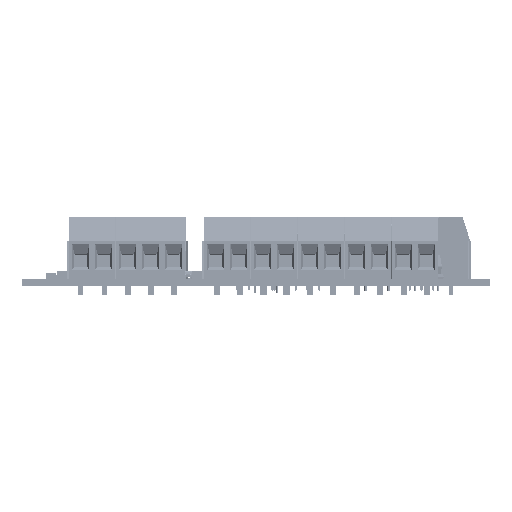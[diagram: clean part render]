
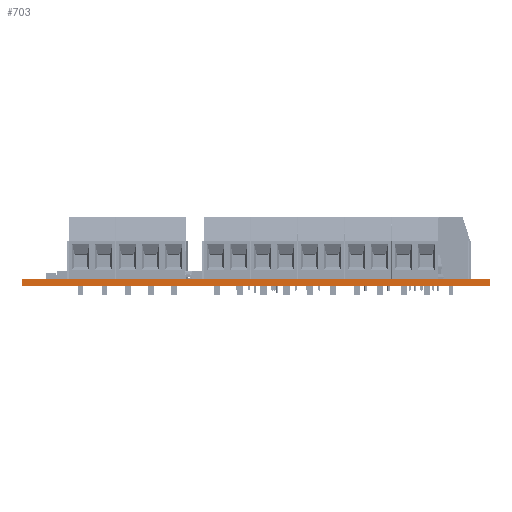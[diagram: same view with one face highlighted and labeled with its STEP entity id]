
A CAD part, left-side view. The second image highlights one B-rep face of the part: STEP entity #703.
In plain terms, the highlighted planar face has unit normal (-1, 0, 0).
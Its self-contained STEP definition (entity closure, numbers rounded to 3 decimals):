
#440 = EDGE_CURVE('',#441,#443,#445,.T.);
#441 = VERTEX_POINT('',#442);
#442 = CARTESIAN_POINT('',(0.,0.,0.));
#443 = VERTEX_POINT('',#444);
#444 = CARTESIAN_POINT('',(0.,0.,1.6));
#445 = SURFACE_CURVE('',#446,(#450,#462),.PCURVE_S1.);
#446 = LINE('',#447,#448);
#447 = CARTESIAN_POINT('',(0.,0.,0.));
#448 = VECTOR('',#449,1.);
#449 = DIRECTION('',(0.,0.,1.));
#450 = PCURVE('',#451,#456);
#451 = PLANE('',#452);
#452 = AXIS2_PLACEMENT_3D('',#453,#454,#455);
#453 = CARTESIAN_POINT('',(0.,0.,0.));
#454 = DIRECTION('',(0.,1.,0.));
#455 = DIRECTION('',(1.,0.,0.));
#456 = DEFINITIONAL_REPRESENTATION('',(#457),#461);
#457 = LINE('',#458,#459);
#458 = CARTESIAN_POINT('',(0.,0.));
#459 = VECTOR('',#460,1.);
#460 = DIRECTION('',(0.,-1.));
#461 = ( GEOMETRIC_REPRESENTATION_CONTEXT(2) 
PARAMETRIC_REPRESENTATION_CONTEXT() REPRESENTATION_CONTEXT('2D SPACE',''
  ) );
#462 = PCURVE('',#463,#468);
#463 = PLANE('',#464);
#464 = AXIS2_PLACEMENT_3D('',#465,#466,#467);
#465 = CARTESIAN_POINT('',(0.,101.6,0.));
#466 = DIRECTION('',(1.,0.,0.));
#467 = DIRECTION('',(0.,-1.,0.));
#468 = DEFINITIONAL_REPRESENTATION('',(#469),#473);
#469 = LINE('',#470,#471);
#470 = CARTESIAN_POINT('',(101.6,0.));
#471 = VECTOR('',#472,1.);
#472 = DIRECTION('',(0.,-1.));
#473 = ( GEOMETRIC_REPRESENTATION_CONTEXT(2) 
PARAMETRIC_REPRESENTATION_CONTEXT() REPRESENTATION_CONTEXT('2D SPACE',''
  ) );
#491 = PLANE('',#492);
#492 = AXIS2_PLACEMENT_3D('',#493,#494,#495);
#493 = CARTESIAN_POINT('',(0.,0.,1.6));
#494 = DIRECTION('',(0.,0.,-1.));
#495 = DIRECTION('',(-1.,0.,0.));
#545 = PLANE('',#546);
#546 = AXIS2_PLACEMENT_3D('',#547,#548,#549);
#547 = CARTESIAN_POINT('',(0.,0.,0.));
#548 = DIRECTION('',(0.,0.,-1.));
#549 = DIRECTION('',(-1.,0.,0.));
#600 = PLANE('',#601);
#601 = AXIS2_PLACEMENT_3D('',#602,#603,#604);
#602 = CARTESIAN_POINT('',(127.,101.6,0.));
#603 = DIRECTION('',(0.,-1.,0.));
#604 = DIRECTION('',(-1.,0.,0.));
#638 = VERTEX_POINT('',#639);
#639 = CARTESIAN_POINT('',(0.,101.6,1.6));
#660 = EDGE_CURVE('',#661,#638,#663,.T.);
#661 = VERTEX_POINT('',#662);
#662 = CARTESIAN_POINT('',(0.,101.6,0.));
#663 = SURFACE_CURVE('',#664,(#668,#675),.PCURVE_S1.);
#664 = LINE('',#665,#666);
#665 = CARTESIAN_POINT('',(0.,101.6,0.));
#666 = VECTOR('',#667,1.);
#667 = DIRECTION('',(0.,0.,1.));
#668 = PCURVE('',#600,#669);
#669 = DEFINITIONAL_REPRESENTATION('',(#670),#674);
#670 = LINE('',#671,#672);
#671 = CARTESIAN_POINT('',(127.,0.));
#672 = VECTOR('',#673,1.);
#673 = DIRECTION('',(0.,-1.));
#674 = ( GEOMETRIC_REPRESENTATION_CONTEXT(2) 
PARAMETRIC_REPRESENTATION_CONTEXT() REPRESENTATION_CONTEXT('2D SPACE',''
  ) );
#675 = PCURVE('',#463,#676);
#676 = DEFINITIONAL_REPRESENTATION('',(#677),#681);
#677 = LINE('',#678,#679);
#678 = CARTESIAN_POINT('',(0.,0.));
#679 = VECTOR('',#680,1.);
#680 = DIRECTION('',(0.,-1.));
#681 = ( GEOMETRIC_REPRESENTATION_CONTEXT(2) 
PARAMETRIC_REPRESENTATION_CONTEXT() REPRESENTATION_CONTEXT('2D SPACE',''
  ) );
#703 = ADVANCED_FACE('',(#704),#463,.F.);
#704 = FACE_BOUND('',#705,.F.);
#705 = EDGE_LOOP('',(#706,#707,#728,#729));
#706 = ORIENTED_EDGE('',*,*,#660,.T.);
#707 = ORIENTED_EDGE('',*,*,#708,.T.);
#708 = EDGE_CURVE('',#638,#443,#709,.T.);
#709 = SURFACE_CURVE('',#710,(#714,#721),.PCURVE_S1.);
#710 = LINE('',#711,#712);
#711 = CARTESIAN_POINT('',(0.,101.6,1.6));
#712 = VECTOR('',#713,1.);
#713 = DIRECTION('',(0.,-1.,0.));
#714 = PCURVE('',#463,#715);
#715 = DEFINITIONAL_REPRESENTATION('',(#716),#720);
#716 = LINE('',#717,#718);
#717 = CARTESIAN_POINT('',(0.,-1.6));
#718 = VECTOR('',#719,1.);
#719 = DIRECTION('',(1.,0.));
#720 = ( GEOMETRIC_REPRESENTATION_CONTEXT(2) 
PARAMETRIC_REPRESENTATION_CONTEXT() REPRESENTATION_CONTEXT('2D SPACE',''
  ) );
#721 = PCURVE('',#491,#722);
#722 = DEFINITIONAL_REPRESENTATION('',(#723),#727);
#723 = LINE('',#724,#725);
#724 = CARTESIAN_POINT('',(0.,101.6));
#725 = VECTOR('',#726,1.);
#726 = DIRECTION('',(0.,-1.));
#727 = ( GEOMETRIC_REPRESENTATION_CONTEXT(2) 
PARAMETRIC_REPRESENTATION_CONTEXT() REPRESENTATION_CONTEXT('2D SPACE',''
  ) );
#728 = ORIENTED_EDGE('',*,*,#440,.F.);
#729 = ORIENTED_EDGE('',*,*,#730,.F.);
#730 = EDGE_CURVE('',#661,#441,#731,.T.);
#731 = SURFACE_CURVE('',#732,(#736,#743),.PCURVE_S1.);
#732 = LINE('',#733,#734);
#733 = CARTESIAN_POINT('',(0.,101.6,0.));
#734 = VECTOR('',#735,1.);
#735 = DIRECTION('',(0.,-1.,0.));
#736 = PCURVE('',#463,#737);
#737 = DEFINITIONAL_REPRESENTATION('',(#738),#742);
#738 = LINE('',#739,#740);
#739 = CARTESIAN_POINT('',(0.,0.));
#740 = VECTOR('',#741,1.);
#741 = DIRECTION('',(1.,0.));
#742 = ( GEOMETRIC_REPRESENTATION_CONTEXT(2) 
PARAMETRIC_REPRESENTATION_CONTEXT() REPRESENTATION_CONTEXT('2D SPACE',''
  ) );
#743 = PCURVE('',#545,#744);
#744 = DEFINITIONAL_REPRESENTATION('',(#745),#749);
#745 = LINE('',#746,#747);
#746 = CARTESIAN_POINT('',(0.,101.6));
#747 = VECTOR('',#748,1.);
#748 = DIRECTION('',(0.,-1.));
#749 = ( GEOMETRIC_REPRESENTATION_CONTEXT(2) 
PARAMETRIC_REPRESENTATION_CONTEXT() REPRESENTATION_CONTEXT('2D SPACE',''
  ) );
